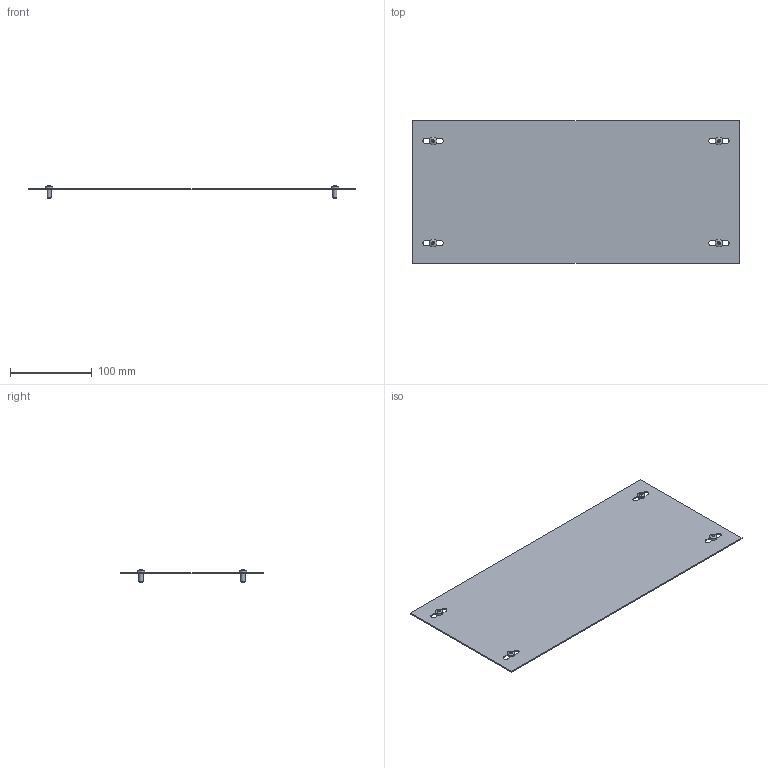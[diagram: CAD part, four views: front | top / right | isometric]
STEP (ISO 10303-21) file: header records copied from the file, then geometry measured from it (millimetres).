
FILE_DESCRIPTION(('Open CASCADE Model'),'2;1');
FILE_NAME('Open CASCADE Shape Model','2025-03-28T17:53:16',('Author'),( 'Open CASCADE'),'Open CASCADE STEP processor 7.8','Open CASCADE 7.8' ,'Unknown');
FILE_SCHEMA(('AUTOMOTIVE_DESIGN { 1 0 10303 214 1 1 1 1 }'));
Length unit declared in the file: millimetre
Products named in the file (3): Compound1; Solid1; Solid2
Assembly tree (5 placements, depth 2):
  Compound1
    Solid1
    Solid2  x4
Bounding box: 400 x 175 x 15.56 mm (x, y, z)
Volume: 105775.7 mm3; surface area: 142542.5 mm2
Topology: 5 solids, 5 shells, 86 faces, 180 edges, 108 vertices
Faces by surface type: plane 46, cylinder 16, torus 8, cone 8, sphere 4, bspline 4
Full cylindrical faces by diameter (mm): 5 x4, 9.5 x4
Entity records: 1508 total; most frequent: CARTESIAN_POINT 562, DIRECTION 190, ORIENTED_EDGE 178, EDGE_CURVE 89, AXIS2_PLACEMENT_3D 73, VERTEX_POINT 57, FACE_BOUND 48, EDGE_LOOP 48
